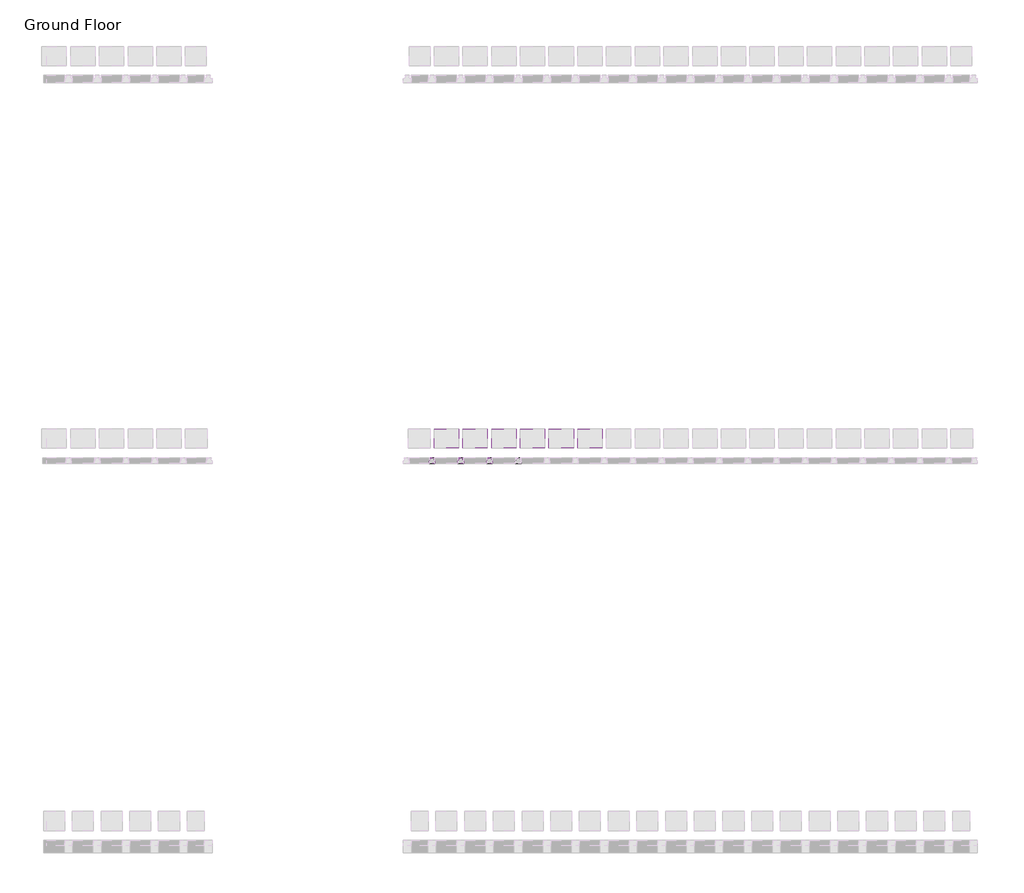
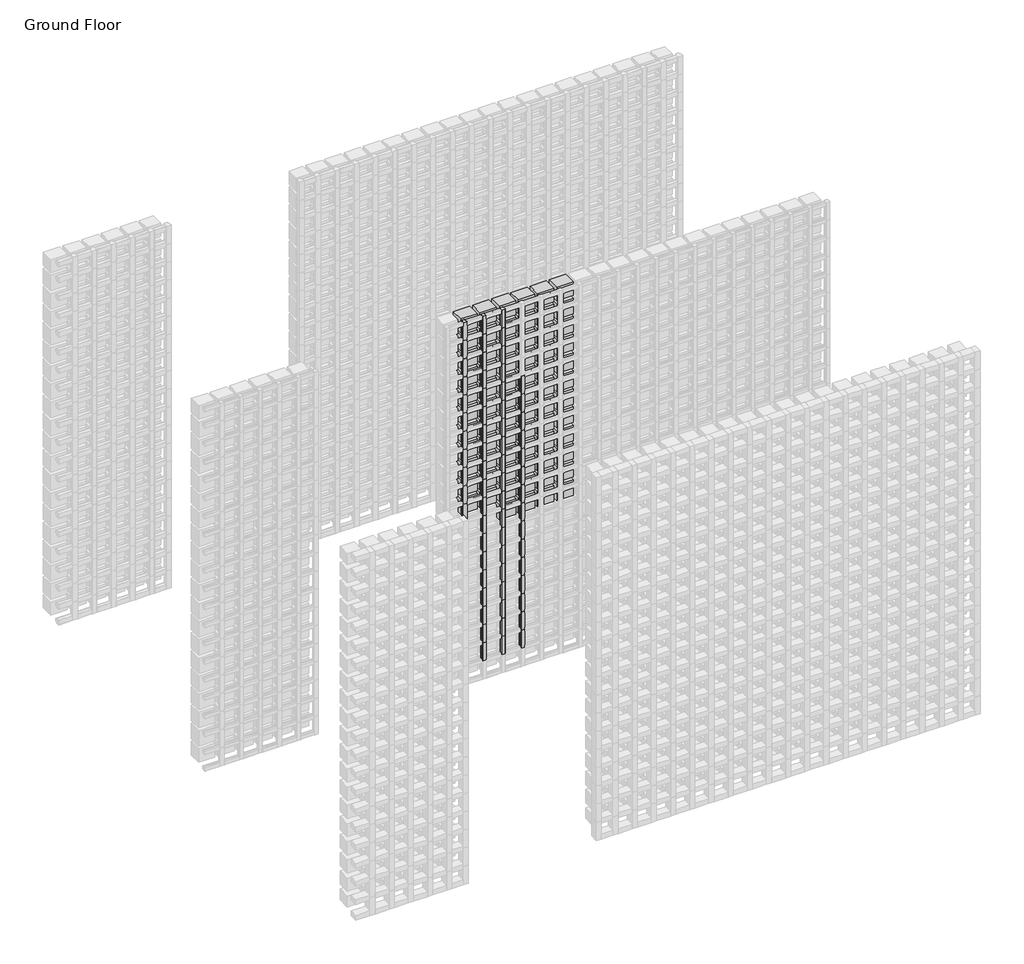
# One storey, part 136 of 350: 72 members, 70 plates.
"""IFC4 building model written with IfcOpenShell, lengths in millimetres."""

from ifc_helpers import new_model, si_unit, origin, place, context, project, spatial, transform, mapped, element, save
from components import rectangular_mullion_f1976eb1, empty_system_panel_empty_5a3607ba, empty_system_panel_empty_babc703c

model = new_model("IFC4")

# Units and contexts
model_context = context("Model", 3, world=origin())
ifc_project = project(units=[si_unit("LENGTHUNIT", "METRE", prefix="MILLI")], contexts=[model_context])

# Site, building, storey
site = spatial("IfcSite", under=ifc_project)
building = spatial("IfcBuilding", under=site)
storey = spatial("IfcBuildingStorey", under=building, Name="Ground Floor", Elevation=0.0)

# Members
placement = place(None, origin())
rectangular_mullion_shape = rectangular_mullion_f1976eb1(model_context)
element("IfcMember", 1, ObjectType="Rectangular Mullion : Batten_Timber_Modinex_Austratus_Grid_Fin_30x30_Hemlock", at=placement, inside=storey, context=model_context, shape_type="MappedRepresentation", body=[
    mapped(rectangular_mullion_shape, transform((10066.4361642, 42968.2978302, 150.0), x_axis=(1.0, 0.0, 0.0), y_axis=(0.0, -1.0, 0.0), z_axis=(0.0, 0.0, -1.0))),
])
element("IfcMember", 2, ObjectType="Rectangular Mullion : Batten_Timber_Modinex_Austratus_Grid_Fin_30x30_Hemlock", at=placement, inside=storey, context=model_context, shape_type="MappedRepresentation", body=[
    mapped(rectangular_mullion_shape, transform((10066.4361642, 42968.2978302, 300.0), x_axis=(1.0, 0.0, 0.0), y_axis=(0.0, -1.0, 0.0), z_axis=(0.0, 0.0, -1.0))),
])
element("IfcMember", 3, ObjectType="Rectangular Mullion : Batten_Timber_Modinex_Austratus_Grid_Fin_30x30_Hemlock", at=placement, inside=storey, context=model_context, shape_type="MappedRepresentation", body=[
    mapped(rectangular_mullion_shape, transform((10066.4361642, 42968.2978302, 450.0), x_axis=(1.0, 0.0, 0.0), y_axis=(0.0, -1.0, 0.0), z_axis=(0.0, 0.0, -1.0))),
])
element("IfcMember", 4, ObjectType="Rectangular Mullion : Batten_Timber_Modinex_Austratus_Grid_Fin_30x30_Hemlock", at=placement, inside=storey, context=model_context, shape_type="MappedRepresentation", body=[
    mapped(rectangular_mullion_shape, transform((10066.4361642, 42968.2978302, 600.0), x_axis=(1.0, 0.0, 0.0), y_axis=(0.0, -1.0, 0.0), z_axis=(0.0, 0.0, -1.0))),
])
element("IfcMember", 5, ObjectType="Rectangular Mullion : Batten_Timber_Modinex_Austratus_Grid_Fin_30x30_Hemlock", at=placement, inside=storey, context=model_context, shape_type="MappedRepresentation", body=[
    mapped(rectangular_mullion_shape, transform((10066.4361642, 42968.2978302, 750.0), x_axis=(1.0, 0.0, 0.0), y_axis=(0.0, -1.0, 0.0), z_axis=(0.0, 0.0, -1.0))),
])
element("IfcMember", 6, ObjectType="Rectangular Mullion : Batten_Timber_Modinex_Austratus_Grid_Fin_30x30_Hemlock", at=placement, inside=storey, context=model_context, shape_type="MappedRepresentation", body=[
    mapped(rectangular_mullion_shape, transform((10066.4361642, 42968.2978302, 900.0), x_axis=(1.0, 0.0, 0.0), y_axis=(0.0, -1.0, 0.0), z_axis=(0.0, 0.0, -1.0))),
])
element("IfcMember", 7, ObjectType="Rectangular Mullion : Batten_Timber_Modinex_Austratus_Grid_Fin_30x30_Hemlock", at=placement, inside=storey, context=model_context, shape_type="MappedRepresentation", body=[
    mapped(rectangular_mullion_shape, transform((10066.4361642, 42968.2978302, 1050.0), x_axis=(1.0, 0.0, 0.0), y_axis=(0.0, -1.0, 0.0), z_axis=(0.0, 0.0, -1.0))),
])
element("IfcMember", 8, ObjectType="Rectangular Mullion : Batten_Timber_Modinex_Austratus_Grid_Fin_30x30_Hemlock", at=placement, inside=storey, context=model_context, shape_type="MappedRepresentation", body=[
    mapped(rectangular_mullion_shape, transform((10066.4361642, 42968.2978302, 1200.0), x_axis=(1.0, 0.0, 0.0), y_axis=(0.0, -1.0, 0.0), z_axis=(0.0, 0.0, -1.0))),
])
element("IfcMember", 9, ObjectType="Rectangular Mullion : Batten_Timber_Modinex_Austratus_Grid_Fin_30x30_Hemlock", at=placement, inside=storey, context=model_context, shape_type="MappedRepresentation", body=[
    mapped(rectangular_mullion_shape, transform((10066.4361642, 42968.2978302, 1350.0), x_axis=(1.0, 0.0, 0.0), y_axis=(0.0, -1.0, 0.0), z_axis=(0.0, 0.0, -1.0))),
])
element("IfcMember", 10, ObjectType="Rectangular Mullion : Batten_Timber_Modinex_Austratus_Grid_Fin_30x30_Hemlock", at=placement, inside=storey, context=model_context, shape_type="MappedRepresentation", body=[
    mapped(rectangular_mullion_shape, transform((10066.4361642, 42968.2978302, 1500.0), x_axis=(1.0, 0.0, 0.0), y_axis=(0.0, -1.0, 0.0), z_axis=(0.0, 0.0, -1.0))),
])
element("IfcMember", 11, ObjectType="Rectangular Mullion : Batten_Timber_Modinex_Austratus_Grid_Fin_30x30_Hemlock", at=placement, inside=storey, context=model_context, shape_type="MappedRepresentation", body=[
    mapped(rectangular_mullion_shape, transform((10066.4361642, 42968.2978302, 1650.0), x_axis=(1.0, 0.0, 0.0), y_axis=(0.0, -1.0, 0.0), z_axis=(0.0, 0.0, -1.0))),
])
element("IfcMember", 12, ObjectType="Rectangular Mullion : Batten_Timber_Modinex_Austratus_Grid_Fin_30x30_Hemlock", at=placement, inside=storey, context=model_context, shape_type="MappedRepresentation", body=[
    mapped(rectangular_mullion_shape, transform((10066.4361642, 42968.2978302, 1800.0), x_axis=(1.0, 0.0, 0.0), y_axis=(0.0, -1.0, 0.0), z_axis=(0.0, 0.0, -1.0))),
])
element("IfcMember", 13, ObjectType="Rectangular Mullion : Batten_Timber_Modinex_Austratus_Grid_Fin_30x30_Hemlock", at=placement, inside=storey, context=model_context, shape_type="MappedRepresentation", body=[
    mapped(rectangular_mullion_shape, transform((10066.4361642, 42968.2978302, 1950.0), x_axis=(1.0, 0.0, 0.0), y_axis=(0.0, -1.0, 0.0), z_axis=(0.0, 0.0, -1.0))),
])
element("IfcMember", 14, ObjectType="Rectangular Mullion : Batten_Timber_Modinex_Austratus_Grid_Fin_30x30_Hemlock", at=placement, inside=storey, context=model_context, shape_type="MappedRepresentation", body=[
    mapped(rectangular_mullion_shape, transform((10066.4361642, 42968.2978302, 2100.0), x_axis=(1.0, 0.0, 0.0), y_axis=(0.0, -1.0, 0.0), z_axis=(0.0, 0.0, -1.0))),
])
element("IfcMember", 15, ObjectType="Rectangular Mullion : Batten_Timber_Modinex_Austratus_Grid_Fin_30x30_Hemlock", at=placement, inside=storey, context=model_context, shape_type="MappedRepresentation", body=[
    mapped(rectangular_mullion_shape, transform((10066.4361642, 42968.2978302, 2250.0), x_axis=(1.0, 0.0, 0.0), y_axis=(0.0, -1.0, 0.0), z_axis=(0.0, 0.0, -1.0))),
])
element("IfcMember", 16, ObjectType="Rectangular Mullion : Batten_Timber_Modinex_Austratus_Grid_Fin_30x30_Hemlock", at=placement, inside=storey, context=model_context, shape_type="MappedRepresentation", body=[
    mapped(rectangular_mullion_shape, transform((10066.4361642, 42968.2978302, 2400.0), x_axis=(1.0, 0.0, 0.0), y_axis=(0.0, -1.0, 0.0), z_axis=(0.0, 0.0, -1.0))),
])
element("IfcMember", 17, ObjectType="Rectangular Mullion : Batten_Timber_Modinex_Austratus_Grid_Fin_30x30_Hemlock", at=placement, inside=storey, context=model_context, shape_type="MappedRepresentation", body=[
    mapped(rectangular_mullion_shape, transform((10066.4361642, 42968.2978302, 2550.0), x_axis=(1.0, 0.0, 0.0), y_axis=(0.0, -1.0, 0.0), z_axis=(0.0, 0.0, -1.0))),
])
element("IfcMember", 18, ObjectType="Rectangular Mullion : Batten_Timber_Modinex_Austratus_Grid_Fin_30x30_Hemlock", at=placement, inside=storey, context=model_context, shape_type="MappedRepresentation", body=[
    mapped(rectangular_mullion_shape, transform((10066.4361642, 42968.2978302, 2700.0), x_axis=(1.0, 0.0, 0.0), y_axis=(0.0, -1.0, 0.0), z_axis=(0.0, 0.0, -1.0))),
])
element("IfcMember", 19, ObjectType="Rectangular Mullion : Batten_Timber_Modinex_Austratus_Grid_Fin_30x30_Hemlock", at=placement, inside=storey, context=model_context, shape_type="MappedRepresentation", body=[
    mapped(rectangular_mullion_shape, transform((10216.4361642, 42968.2978302, 150.0), x_axis=(1.0, 0.0, 0.0), y_axis=(0.0, -1.0, 0.0), z_axis=(0.0, 0.0, -1.0))),
])
element("IfcMember", 20, ObjectType="Rectangular Mullion : Batten_Timber_Modinex_Austratus_Grid_Fin_30x30_Hemlock", at=placement, inside=storey, context=model_context, shape_type="MappedRepresentation", body=[
    mapped(rectangular_mullion_shape, transform((10216.4361642, 42968.2978302, 300.0), x_axis=(1.0, 0.0, 0.0), y_axis=(0.0, -1.0, 0.0), z_axis=(0.0, 0.0, -1.0))),
])
element("IfcMember", 21, ObjectType="Rectangular Mullion : Batten_Timber_Modinex_Austratus_Grid_Fin_30x30_Hemlock", at=placement, inside=storey, context=model_context, shape_type="MappedRepresentation", body=[
    mapped(rectangular_mullion_shape, transform((10216.4361642, 42968.2978302, 450.0), x_axis=(1.0, 0.0, 0.0), y_axis=(0.0, -1.0, 0.0), z_axis=(0.0, 0.0, -1.0))),
])
element("IfcMember", 22, ObjectType="Rectangular Mullion : Batten_Timber_Modinex_Austratus_Grid_Fin_30x30_Hemlock", at=placement, inside=storey, context=model_context, shape_type="MappedRepresentation", body=[
    mapped(rectangular_mullion_shape, transform((10216.4361642, 42968.2978302, 600.0), x_axis=(1.0, 0.0, 0.0), y_axis=(0.0, -1.0, 0.0), z_axis=(0.0, 0.0, -1.0))),
])
element("IfcMember", 23, ObjectType="Rectangular Mullion : Batten_Timber_Modinex_Austratus_Grid_Fin_30x30_Hemlock", at=placement, inside=storey, context=model_context, shape_type="MappedRepresentation", body=[
    mapped(rectangular_mullion_shape, transform((10216.4361642, 42968.2978302, 750.0), x_axis=(1.0, 0.0, 0.0), y_axis=(0.0, -1.0, 0.0), z_axis=(0.0, 0.0, -1.0))),
])
element("IfcMember", 24, ObjectType="Rectangular Mullion : Batten_Timber_Modinex_Austratus_Grid_Fin_30x30_Hemlock", at=placement, inside=storey, context=model_context, shape_type="MappedRepresentation", body=[
    mapped(rectangular_mullion_shape, transform((10216.4361642, 42968.2978302, 900.0), x_axis=(1.0, 0.0, 0.0), y_axis=(0.0, -1.0, 0.0), z_axis=(0.0, 0.0, -1.0))),
])
element("IfcMember", 25, ObjectType="Rectangular Mullion : Batten_Timber_Modinex_Austratus_Grid_Fin_30x30_Hemlock", at=placement, inside=storey, context=model_context, shape_type="MappedRepresentation", body=[
    mapped(rectangular_mullion_shape, transform((10216.4361642, 42968.2978302, 1050.0), x_axis=(1.0, 0.0, 0.0), y_axis=(0.0, -1.0, 0.0), z_axis=(0.0, 0.0, -1.0))),
])
element("IfcMember", 26, ObjectType="Rectangular Mullion : Batten_Timber_Modinex_Austratus_Grid_Fin_30x30_Hemlock", at=placement, inside=storey, context=model_context, shape_type="MappedRepresentation", body=[
    mapped(rectangular_mullion_shape, transform((10216.4361642, 42968.2978302, 1200.0), x_axis=(1.0, 0.0, 0.0), y_axis=(0.0, -1.0, 0.0), z_axis=(0.0, 0.0, -1.0))),
])
element("IfcMember", 27, ObjectType="Rectangular Mullion : Batten_Timber_Modinex_Austratus_Grid_Fin_30x30_Hemlock", at=placement, inside=storey, context=model_context, shape_type="MappedRepresentation", body=[
    mapped(rectangular_mullion_shape, transform((10216.4361642, 42968.2978302, 1350.0), x_axis=(1.0, 0.0, 0.0), y_axis=(0.0, -1.0, 0.0), z_axis=(0.0, 0.0, -1.0))),
])
element("IfcMember", 28, ObjectType="Rectangular Mullion : Batten_Timber_Modinex_Austratus_Grid_Fin_30x30_Hemlock", at=placement, inside=storey, context=model_context, shape_type="MappedRepresentation", body=[
    mapped(rectangular_mullion_shape, transform((10216.4361642, 42968.2978302, 1500.0), x_axis=(1.0, 0.0, 0.0), y_axis=(0.0, -1.0, 0.0), z_axis=(0.0, 0.0, -1.0))),
])
element("IfcMember", 29, ObjectType="Rectangular Mullion : Batten_Timber_Modinex_Austratus_Grid_Fin_30x30_Hemlock", at=placement, inside=storey, context=model_context, shape_type="MappedRepresentation", body=[
    mapped(rectangular_mullion_shape, transform((10216.4361642, 42968.2978302, 1650.0), x_axis=(1.0, 0.0, 0.0), y_axis=(0.0, -1.0, 0.0), z_axis=(0.0, 0.0, -1.0))),
])
element("IfcMember", 30, ObjectType="Rectangular Mullion : Batten_Timber_Modinex_Austratus_Grid_Fin_30x30_Hemlock", at=placement, inside=storey, context=model_context, shape_type="MappedRepresentation", body=[
    mapped(rectangular_mullion_shape, transform((10216.4361642, 42968.2978302, 1800.0), x_axis=(1.0, 0.0, 0.0), y_axis=(0.0, -1.0, 0.0), z_axis=(0.0, 0.0, -1.0))),
])
element("IfcMember", 31, ObjectType="Rectangular Mullion : Batten_Timber_Modinex_Austratus_Grid_Fin_30x30_Hemlock", at=placement, inside=storey, context=model_context, shape_type="MappedRepresentation", body=[
    mapped(rectangular_mullion_shape, transform((10216.4361642, 42968.2978302, 1950.0), x_axis=(1.0, 0.0, 0.0), y_axis=(0.0, -1.0, 0.0), z_axis=(0.0, 0.0, -1.0))),
])
element("IfcMember", 32, ObjectType="Rectangular Mullion : Batten_Timber_Modinex_Austratus_Grid_Fin_30x30_Hemlock", at=placement, inside=storey, context=model_context, shape_type="MappedRepresentation", body=[
    mapped(rectangular_mullion_shape, transform((10216.4361642, 42968.2978302, 2100.0), x_axis=(1.0, 0.0, 0.0), y_axis=(0.0, -1.0, 0.0), z_axis=(0.0, 0.0, -1.0))),
])
element("IfcMember", 33, ObjectType="Rectangular Mullion : Batten_Timber_Modinex_Austratus_Grid_Fin_30x30_Hemlock", at=placement, inside=storey, context=model_context, shape_type="MappedRepresentation", body=[
    mapped(rectangular_mullion_shape, transform((10216.4361642, 42968.2978302, 2250.0), x_axis=(1.0, 0.0, 0.0), y_axis=(0.0, -1.0, 0.0), z_axis=(0.0, 0.0, -1.0))),
])
element("IfcMember", 34, ObjectType="Rectangular Mullion : Batten_Timber_Modinex_Austratus_Grid_Fin_30x30_Hemlock", at=placement, inside=storey, context=model_context, shape_type="MappedRepresentation", body=[
    mapped(rectangular_mullion_shape, transform((10216.4361642, 42968.2978302, 2400.0), x_axis=(1.0, 0.0, 0.0), y_axis=(0.0, -1.0, 0.0), z_axis=(0.0, 0.0, -1.0))),
])
element("IfcMember", 35, ObjectType="Rectangular Mullion : Batten_Timber_Modinex_Austratus_Grid_Fin_30x30_Hemlock", at=placement, inside=storey, context=model_context, shape_type="MappedRepresentation", body=[
    mapped(rectangular_mullion_shape, transform((10216.4361642, 42968.2978302, 2550.0), x_axis=(1.0, 0.0, 0.0), y_axis=(0.0, -1.0, 0.0), z_axis=(0.0, 0.0, -1.0))),
])
element("IfcMember", 36, ObjectType="Rectangular Mullion : Batten_Timber_Modinex_Austratus_Grid_Fin_30x30_Hemlock", at=placement, inside=storey, context=model_context, shape_type="MappedRepresentation", body=[
    mapped(rectangular_mullion_shape, transform((10216.4361642, 42968.2978302, 2700.0), x_axis=(1.0, 0.0, 0.0), y_axis=(0.0, -1.0, 0.0), z_axis=(0.0, 0.0, -1.0))),
])
element("IfcMember", 37, ObjectType="Rectangular Mullion : Batten_Timber_Modinex_Austratus_Grid_Fin_30x30_Hemlock", at=placement, inside=storey, context=model_context, shape_type="MappedRepresentation", body=[
    mapped(rectangular_mullion_shape, transform((10366.4361642, 42968.2978302, 150.0), x_axis=(1.0, 0.0, 0.0), y_axis=(0.0, -1.0, 0.0), z_axis=(0.0, 0.0, -1.0))),
])
element("IfcMember", 38, ObjectType="Rectangular Mullion : Batten_Timber_Modinex_Austratus_Grid_Fin_30x30_Hemlock", at=placement, inside=storey, context=model_context, shape_type="MappedRepresentation", body=[
    mapped(rectangular_mullion_shape, transform((10366.4361642, 42968.2978302, 300.0), x_axis=(1.0, 0.0, 0.0), y_axis=(0.0, -1.0, 0.0), z_axis=(0.0, 0.0, -1.0))),
])
element("IfcMember", 39, ObjectType="Rectangular Mullion : Batten_Timber_Modinex_Austratus_Grid_Fin_30x30_Hemlock", at=placement, inside=storey, context=model_context, shape_type="MappedRepresentation", body=[
    mapped(rectangular_mullion_shape, transform((10366.4361642, 42968.2978302, 450.0), x_axis=(1.0, 0.0, 0.0), y_axis=(0.0, -1.0, 0.0), z_axis=(0.0, 0.0, -1.0))),
])
element("IfcMember", 40, ObjectType="Rectangular Mullion : Batten_Timber_Modinex_Austratus_Grid_Fin_30x30_Hemlock", at=placement, inside=storey, context=model_context, shape_type="MappedRepresentation", body=[
    mapped(rectangular_mullion_shape, transform((10366.4361642, 42968.2978302, 600.0), x_axis=(1.0, 0.0, 0.0), y_axis=(0.0, -1.0, 0.0), z_axis=(0.0, 0.0, -1.0))),
])
element("IfcMember", 41, ObjectType="Rectangular Mullion : Batten_Timber_Modinex_Austratus_Grid_Fin_30x30_Hemlock", at=placement, inside=storey, context=model_context, shape_type="MappedRepresentation", body=[
    mapped(rectangular_mullion_shape, transform((10366.4361642, 42968.2978302, 750.0), x_axis=(1.0, 0.0, 0.0), y_axis=(0.0, -1.0, 0.0), z_axis=(0.0, 0.0, -1.0))),
])
element("IfcMember", 42, ObjectType="Rectangular Mullion : Batten_Timber_Modinex_Austratus_Grid_Fin_30x30_Hemlock", at=placement, inside=storey, context=model_context, shape_type="MappedRepresentation", body=[
    mapped(rectangular_mullion_shape, transform((10366.4361642, 42968.2978302, 900.0), x_axis=(1.0, 0.0, 0.0), y_axis=(0.0, -1.0, 0.0), z_axis=(0.0, 0.0, -1.0))),
])
element("IfcMember", 43, ObjectType="Rectangular Mullion : Batten_Timber_Modinex_Austratus_Grid_Fin_30x30_Hemlock", at=placement, inside=storey, context=model_context, shape_type="MappedRepresentation", body=[
    mapped(rectangular_mullion_shape, transform((10366.4361642, 42968.2978302, 1050.0), x_axis=(1.0, 0.0, 0.0), y_axis=(0.0, -1.0, 0.0), z_axis=(0.0, 0.0, -1.0))),
])
element("IfcMember", 44, ObjectType="Rectangular Mullion : Batten_Timber_Modinex_Austratus_Grid_Fin_30x30_Hemlock", at=placement, inside=storey, context=model_context, shape_type="MappedRepresentation", body=[
    mapped(rectangular_mullion_shape, transform((10366.4361642, 42968.2978302, 1200.0), x_axis=(1.0, 0.0, 0.0), y_axis=(0.0, -1.0, 0.0), z_axis=(0.0, 0.0, -1.0))),
])
element("IfcMember", 45, ObjectType="Rectangular Mullion : Batten_Timber_Modinex_Austratus_Grid_Fin_30x30_Hemlock", at=placement, inside=storey, context=model_context, shape_type="MappedRepresentation", body=[
    mapped(rectangular_mullion_shape, transform((10366.4361642, 42968.2978302, 1350.0), x_axis=(1.0, 0.0, 0.0), y_axis=(0.0, -1.0, 0.0), z_axis=(0.0, 0.0, -1.0))),
])
element("IfcMember", 46, ObjectType="Rectangular Mullion : Batten_Timber_Modinex_Austratus_Grid_Fin_30x30_Hemlock", at=placement, inside=storey, context=model_context, shape_type="MappedRepresentation", body=[
    mapped(rectangular_mullion_shape, transform((10366.4361642, 42968.2978302, 1500.0), x_axis=(1.0, 0.0, 0.0), y_axis=(0.0, -1.0, 0.0), z_axis=(0.0, 0.0, -1.0))),
])
element("IfcMember", 47, ObjectType="Rectangular Mullion : Batten_Timber_Modinex_Austratus_Grid_Fin_30x30_Hemlock", at=placement, inside=storey, context=model_context, shape_type="MappedRepresentation", body=[
    mapped(rectangular_mullion_shape, transform((10366.4361642, 42968.2978302, 1650.0), x_axis=(1.0, 0.0, 0.0), y_axis=(0.0, -1.0, 0.0), z_axis=(0.0, 0.0, -1.0))),
])
element("IfcMember", 48, ObjectType="Rectangular Mullion : Batten_Timber_Modinex_Austratus_Grid_Fin_30x30_Hemlock", at=placement, inside=storey, context=model_context, shape_type="MappedRepresentation", body=[
    mapped(rectangular_mullion_shape, transform((10366.4361642, 42968.2978302, 1800.0), x_axis=(1.0, 0.0, 0.0), y_axis=(0.0, -1.0, 0.0), z_axis=(0.0, 0.0, -1.0))),
])
element("IfcMember", 49, ObjectType="Rectangular Mullion : Batten_Timber_Modinex_Austratus_Grid_Fin_30x30_Hemlock", at=placement, inside=storey, context=model_context, shape_type="MappedRepresentation", body=[
    mapped(rectangular_mullion_shape, transform((10366.4361642, 42968.2978302, 1950.0), x_axis=(1.0, 0.0, 0.0), y_axis=(0.0, -1.0, 0.0), z_axis=(0.0, 0.0, -1.0))),
])
element("IfcMember", 50, ObjectType="Rectangular Mullion : Batten_Timber_Modinex_Austratus_Grid_Fin_30x30_Hemlock", at=placement, inside=storey, context=model_context, shape_type="MappedRepresentation", body=[
    mapped(rectangular_mullion_shape, transform((10366.4361642, 42968.2978302, 2100.0), x_axis=(1.0, 0.0, 0.0), y_axis=(0.0, -1.0, 0.0), z_axis=(0.0, 0.0, -1.0))),
])
element("IfcMember", 51, ObjectType="Rectangular Mullion : Batten_Timber_Modinex_Austratus_Grid_Fin_30x30_Hemlock", at=placement, inside=storey, context=model_context, shape_type="MappedRepresentation", body=[
    mapped(rectangular_mullion_shape, transform((10366.4361642, 42968.2978302, 2250.0), x_axis=(1.0, 0.0, 0.0), y_axis=(0.0, -1.0, 0.0), z_axis=(0.0, 0.0, -1.0))),
])
element("IfcMember", 52, ObjectType="Rectangular Mullion : Batten_Timber_Modinex_Austratus_Grid_Fin_30x30_Hemlock", at=placement, inside=storey, context=model_context, shape_type="MappedRepresentation", body=[
    mapped(rectangular_mullion_shape, transform((10366.4361642, 42968.2978302, 2400.0), x_axis=(1.0, 0.0, 0.0), y_axis=(0.0, -1.0, 0.0), z_axis=(0.0, 0.0, -1.0))),
])
element("IfcMember", 53, ObjectType="Rectangular Mullion : Batten_Timber_Modinex_Austratus_Grid_Fin_30x30_Hemlock", at=placement, inside=storey, context=model_context, shape_type="MappedRepresentation", body=[
    mapped(rectangular_mullion_shape, transform((10366.4361642, 42968.2978302, 2550.0), x_axis=(1.0, 0.0, 0.0), y_axis=(0.0, -1.0, 0.0), z_axis=(0.0, 0.0, -1.0))),
])
element("IfcMember", 54, ObjectType="Rectangular Mullion : Batten_Timber_Modinex_Austratus_Grid_Fin_30x30_Hemlock", at=placement, inside=storey, context=model_context, shape_type="MappedRepresentation", body=[
    mapped(rectangular_mullion_shape, transform((10366.4361642, 42968.2978302, 2700.0), x_axis=(1.0, 0.0, 0.0), y_axis=(0.0, -1.0, 0.0), z_axis=(0.0, 0.0, -1.0))),
])
element("IfcMember", 55, ObjectType="Rectangular Mullion : Batten_Timber_Modinex_Austratus_Grid_Fin_30x30_Hemlock", at=placement, inside=storey, context=model_context, shape_type="MappedRepresentation", body=[
    mapped(rectangular_mullion_shape, transform((10516.4361642, 42968.2978302, 150.0), x_axis=(1.0, 0.0, 0.0), y_axis=(0.0, -1.0, 0.0), z_axis=(0.0, 0.0, -1.0))),
])
element("IfcMember", 56, ObjectType="Rectangular Mullion : Batten_Timber_Modinex_Austratus_Grid_Fin_30x30_Hemlock", at=placement, inside=storey, context=model_context, shape_type="MappedRepresentation", body=[
    mapped(rectangular_mullion_shape, transform((10516.4361642, 42968.2978302, 300.0), x_axis=(1.0, 0.0, 0.0), y_axis=(0.0, -1.0, 0.0), z_axis=(0.0, 0.0, -1.0))),
])
element("IfcMember", 57, ObjectType="Rectangular Mullion : Batten_Timber_Modinex_Austratus_Grid_Fin_30x30_Hemlock", at=placement, inside=storey, context=model_context, shape_type="MappedRepresentation", body=[
    mapped(rectangular_mullion_shape, transform((10516.4361642, 42968.2978302, 450.0), x_axis=(1.0, 0.0, 0.0), y_axis=(0.0, -1.0, 0.0), z_axis=(0.0, 0.0, -1.0))),
])
element("IfcMember", 58, ObjectType="Rectangular Mullion : Batten_Timber_Modinex_Austratus_Grid_Fin_30x30_Hemlock", at=placement, inside=storey, context=model_context, shape_type="MappedRepresentation", body=[
    mapped(rectangular_mullion_shape, transform((10516.4361642, 42968.2978302, 600.0), x_axis=(1.0, 0.0, 0.0), y_axis=(0.0, -1.0, 0.0), z_axis=(0.0, 0.0, -1.0))),
])
element("IfcMember", 59, ObjectType="Rectangular Mullion : Batten_Timber_Modinex_Austratus_Grid_Fin_30x30_Hemlock", at=placement, inside=storey, context=model_context, shape_type="MappedRepresentation", body=[
    mapped(rectangular_mullion_shape, transform((10516.4361642, 42968.2978302, 750.0), x_axis=(1.0, 0.0, 0.0), y_axis=(0.0, -1.0, 0.0), z_axis=(0.0, 0.0, -1.0))),
])
element("IfcMember", 60, ObjectType="Rectangular Mullion : Batten_Timber_Modinex_Austratus_Grid_Fin_30x30_Hemlock", at=placement, inside=storey, context=model_context, shape_type="MappedRepresentation", body=[
    mapped(rectangular_mullion_shape, transform((10516.4361642, 42968.2978302, 900.0), x_axis=(1.0, 0.0, 0.0), y_axis=(0.0, -1.0, 0.0), z_axis=(0.0, 0.0, -1.0))),
])
element("IfcMember", 61, ObjectType="Rectangular Mullion : Batten_Timber_Modinex_Austratus_Grid_Fin_30x30_Hemlock", at=placement, inside=storey, context=model_context, shape_type="MappedRepresentation", body=[
    mapped(rectangular_mullion_shape, transform((10516.4361642, 42968.2978302, 1050.0), x_axis=(1.0, 0.0, 0.0), y_axis=(0.0, -1.0, 0.0), z_axis=(0.0, 0.0, -1.0))),
])
element("IfcMember", 62, ObjectType="Rectangular Mullion : Batten_Timber_Modinex_Austratus_Grid_Fin_30x30_Hemlock", at=placement, inside=storey, context=model_context, shape_type="MappedRepresentation", body=[
    mapped(rectangular_mullion_shape, transform((10516.4361642, 42968.2978302, 1200.0), x_axis=(1.0, 0.0, 0.0), y_axis=(0.0, -1.0, 0.0), z_axis=(0.0, 0.0, -1.0))),
])
element("IfcMember", 63, ObjectType="Rectangular Mullion : Batten_Timber_Modinex_Austratus_Grid_Fin_30x30_Hemlock", at=placement, inside=storey, context=model_context, shape_type="MappedRepresentation", body=[
    mapped(rectangular_mullion_shape, transform((10516.4361642, 42968.2978302, 1350.0), x_axis=(1.0, 0.0, 0.0), y_axis=(0.0, -1.0, 0.0), z_axis=(0.0, 0.0, -1.0))),
])
element("IfcMember", 64, ObjectType="Rectangular Mullion : Batten_Timber_Modinex_Austratus_Grid_Fin_30x30_Hemlock", at=placement, inside=storey, context=model_context, shape_type="MappedRepresentation", body=[
    mapped(rectangular_mullion_shape, transform((10516.4361642, 42968.2978302, 1500.0), x_axis=(1.0, 0.0, 0.0), y_axis=(0.0, -1.0, 0.0), z_axis=(0.0, 0.0, -1.0))),
])
element("IfcMember", 65, ObjectType="Rectangular Mullion : Batten_Timber_Modinex_Austratus_Grid_Fin_30x30_Hemlock", at=placement, inside=storey, context=model_context, shape_type="MappedRepresentation", body=[
    mapped(rectangular_mullion_shape, transform((10516.4361642, 42968.2978302, 1650.0), x_axis=(1.0, 0.0, 0.0), y_axis=(0.0, -1.0, 0.0), z_axis=(0.0, 0.0, -1.0))),
])
element("IfcMember", 66, ObjectType="Rectangular Mullion : Batten_Timber_Modinex_Austratus_Grid_Fin_30x30_Hemlock", at=placement, inside=storey, context=model_context, shape_type="MappedRepresentation", body=[
    mapped(rectangular_mullion_shape, transform((10516.4361642, 42968.2978302, 1800.0), x_axis=(1.0, 0.0, 0.0), y_axis=(0.0, -1.0, 0.0), z_axis=(0.0, 0.0, -1.0))),
])
element("IfcMember", 67, ObjectType="Rectangular Mullion : Batten_Timber_Modinex_Austratus_Grid_Fin_30x30_Hemlock", at=placement, inside=storey, context=model_context, shape_type="MappedRepresentation", body=[
    mapped(rectangular_mullion_shape, transform((10516.4361642, 42968.2978302, 1950.0), x_axis=(1.0, 0.0, 0.0), y_axis=(0.0, -1.0, 0.0), z_axis=(0.0, 0.0, -1.0))),
])
element("IfcMember", 68, ObjectType="Rectangular Mullion : Batten_Timber_Modinex_Austratus_Grid_Fin_30x30_Hemlock", at=placement, inside=storey, context=model_context, shape_type="MappedRepresentation", body=[
    mapped(rectangular_mullion_shape, transform((10516.4361642, 42968.2978302, 2100.0), x_axis=(1.0, 0.0, 0.0), y_axis=(0.0, -1.0, 0.0), z_axis=(0.0, 0.0, -1.0))),
])
element("IfcMember", 69, ObjectType="Rectangular Mullion : Batten_Timber_Modinex_Austratus_Grid_Fin_30x30_Hemlock", at=placement, inside=storey, context=model_context, shape_type="MappedRepresentation", body=[
    mapped(rectangular_mullion_shape, transform((10516.4361642, 42968.2978302, 2250.0), x_axis=(1.0, 0.0, 0.0), y_axis=(0.0, -1.0, 0.0), z_axis=(0.0, 0.0, -1.0))),
])
element("IfcMember", 70, ObjectType="Rectangular Mullion : Batten_Timber_Modinex_Austratus_Grid_Fin_30x30_Hemlock", at=placement, inside=storey, context=model_context, shape_type="MappedRepresentation", body=[
    mapped(rectangular_mullion_shape, transform((10066.4361642, 42968.2978302, 2850.0), x_axis=(1.0, 0.0, 0.0), y_axis=(0.0, -1.0, 0.0), z_axis=(0.0, 0.0, -1.0))),
])
element("IfcMember", 71, ObjectType="Rectangular Mullion : Batten_Timber_Modinex_Austratus_Grid_Fin_30x30_Hemlock", at=placement, inside=storey, context=model_context, shape_type="MappedRepresentation", body=[
    mapped(rectangular_mullion_shape, transform((10216.4361642, 42968.2978302, 2850.0), x_axis=(1.0, 0.0, 0.0), y_axis=(0.0, -1.0, 0.0), z_axis=(0.0, 0.0, -1.0))),
])
element("IfcMember", 72, ObjectType="Rectangular Mullion : Batten_Timber_Modinex_Austratus_Grid_Fin_30x30_Hemlock", at=placement, inside=storey, context=model_context, shape_type="MappedRepresentation", body=[
    mapped(rectangular_mullion_shape, transform((10366.4361642, 42968.2978302, 2850.0), x_axis=(1.0, 0.0, 0.0), y_axis=(0.0, -1.0, 0.0), z_axis=(0.0, 0.0, -1.0))),
])

# Plates
empty_system_panel_empty_shape = empty_system_panel_empty_5a3607ba(model_context)
element("IfcPlate", 73, ObjectType="Empty System Panel : Empty", at=placement, inside=storey, context=model_context, shape_type="MappedRepresentation", body=[
    mapped(empty_system_panel_empty_shape, transform((10441.4361642, 42968.2978302, 1210.812195), x_axis=(1.0, 0.0, 0.0), y_axis=(0.0, 1.0, 0.0), z_axis=(0.0, 0.0, 1.0))),
])
element("IfcPlate", 74, ObjectType="Empty System Panel : Empty", at=placement, inside=storey, context=model_context, shape_type="MappedRepresentation", body=[
    mapped(empty_system_panel_empty_shape, transform((10591.4361642, 42968.2978302, 1210.812195), x_axis=(1.0, 0.0, 0.0), y_axis=(0.0, 1.0, 0.0), z_axis=(0.0, 0.0, 1.0))),
])
element("IfcPlate", 75, ObjectType="Empty System Panel : Empty", at=placement, inside=storey, context=model_context, shape_type="MappedRepresentation", body=[
    mapped(empty_system_panel_empty_shape, transform((10741.4361642, 42968.2978302, 1210.812195), x_axis=(1.0, 0.0, 0.0), y_axis=(0.0, 1.0, 0.0), z_axis=(0.0, 0.0, 1.0))),
])
element("IfcPlate", 76, ObjectType="Empty System Panel : Empty", at=placement, inside=storey, context=model_context, shape_type="MappedRepresentation", body=[
    mapped(empty_system_panel_empty_shape, transform((10891.4361642, 42968.2978302, 1210.812195), x_axis=(1.0, 0.0, 0.0), y_axis=(0.0, 1.0, 0.0), z_axis=(0.0, 0.0, 1.0))),
])
element("IfcPlate", 77, ObjectType="Empty System Panel : Empty", at=placement, inside=storey, context=model_context, shape_type="MappedRepresentation", body=[
    mapped(empty_system_panel_empty_shape, transform((10141.4361642, 42968.2978302, 1360.812195), x_axis=(1.0, 0.0, 0.0), y_axis=(0.0, 1.0, 0.0), z_axis=(0.0, 0.0, 1.0))),
])
element("IfcPlate", 78, ObjectType="Empty System Panel : Empty", at=placement, inside=storey, context=model_context, shape_type="MappedRepresentation", body=[
    mapped(empty_system_panel_empty_shape, transform((10291.4361642, 42968.2978302, 1360.812195), x_axis=(1.0, 0.0, 0.0), y_axis=(0.0, 1.0, 0.0), z_axis=(0.0, 0.0, 1.0))),
])
element("IfcPlate", 79, ObjectType="Empty System Panel : Empty", at=placement, inside=storey, context=model_context, shape_type="MappedRepresentation", body=[
    mapped(empty_system_panel_empty_shape, transform((10441.4361642, 42968.2978302, 1360.812195), x_axis=(1.0, 0.0, 0.0), y_axis=(0.0, 1.0, 0.0), z_axis=(0.0, 0.0, 1.0))),
])
element("IfcPlate", 80, ObjectType="Empty System Panel : Empty", at=placement, inside=storey, context=model_context, shape_type="MappedRepresentation", body=[
    mapped(empty_system_panel_empty_shape, transform((10591.4361642, 42968.2978302, 1360.812195), x_axis=(1.0, 0.0, 0.0), y_axis=(0.0, 1.0, 0.0), z_axis=(0.0, 0.0, 1.0))),
])
element("IfcPlate", 81, ObjectType="Empty System Panel : Empty", at=placement, inside=storey, context=model_context, shape_type="MappedRepresentation", body=[
    mapped(empty_system_panel_empty_shape, transform((10741.4361642, 42968.2978302, 1360.812195), x_axis=(1.0, 0.0, 0.0), y_axis=(0.0, 1.0, 0.0), z_axis=(0.0, 0.0, 1.0))),
])
element("IfcPlate", 82, ObjectType="Empty System Panel : Empty", at=placement, inside=storey, context=model_context, shape_type="MappedRepresentation", body=[
    mapped(empty_system_panel_empty_shape, transform((10891.4361642, 42968.2978302, 1360.812195), x_axis=(1.0, 0.0, 0.0), y_axis=(0.0, 1.0, 0.0), z_axis=(0.0, 0.0, 1.0))),
])
element("IfcPlate", 83, ObjectType="Empty System Panel : Empty", at=placement, inside=storey, context=model_context, shape_type="MappedRepresentation", body=[
    mapped(empty_system_panel_empty_shape, transform((10141.4361642, 42968.2978302, 1510.812195), x_axis=(1.0, 0.0, 0.0), y_axis=(0.0, 1.0, 0.0), z_axis=(0.0, 0.0, 1.0))),
])
element("IfcPlate", 84, ObjectType="Empty System Panel : Empty", at=placement, inside=storey, context=model_context, shape_type="MappedRepresentation", body=[
    mapped(empty_system_panel_empty_shape, transform((10291.4361642, 42968.2978302, 1510.812195), x_axis=(1.0, 0.0, 0.0), y_axis=(0.0, 1.0, 0.0), z_axis=(0.0, 0.0, 1.0))),
])
element("IfcPlate", 85, ObjectType="Empty System Panel : Empty", at=placement, inside=storey, context=model_context, shape_type="MappedRepresentation", body=[
    mapped(empty_system_panel_empty_shape, transform((10441.4361642, 42968.2978302, 1510.812195), x_axis=(1.0, 0.0, 0.0), y_axis=(0.0, 1.0, 0.0), z_axis=(0.0, 0.0, 1.0))),
])
element("IfcPlate", 86, ObjectType="Empty System Panel : Empty", at=placement, inside=storey, context=model_context, shape_type="MappedRepresentation", body=[
    mapped(empty_system_panel_empty_shape, transform((10591.4361642, 42968.2978302, 1510.812195), x_axis=(1.0, 0.0, 0.0), y_axis=(0.0, 1.0, 0.0), z_axis=(0.0, 0.0, 1.0))),
])
element("IfcPlate", 87, ObjectType="Empty System Panel : Empty", at=placement, inside=storey, context=model_context, shape_type="MappedRepresentation", body=[
    mapped(empty_system_panel_empty_shape, transform((10741.4361642, 42968.2978302, 1510.812195), x_axis=(1.0, 0.0, 0.0), y_axis=(0.0, 1.0, 0.0), z_axis=(0.0, 0.0, 1.0))),
])
element("IfcPlate", 88, ObjectType="Empty System Panel : Empty", at=placement, inside=storey, context=model_context, shape_type="MappedRepresentation", body=[
    mapped(empty_system_panel_empty_shape, transform((10891.4361642, 42968.2978302, 1510.812195), x_axis=(1.0, 0.0, 0.0), y_axis=(0.0, 1.0, 0.0), z_axis=(0.0, 0.0, 1.0))),
])
element("IfcPlate", 89, ObjectType="Empty System Panel : Empty", at=placement, inside=storey, context=model_context, shape_type="MappedRepresentation", body=[
    mapped(empty_system_panel_empty_shape, transform((10141.4361642, 42968.2978302, 1660.812195), x_axis=(1.0, 0.0, 0.0), y_axis=(0.0, 1.0, 0.0), z_axis=(0.0, 0.0, 1.0))),
])
element("IfcPlate", 90, ObjectType="Empty System Panel : Empty", at=placement, inside=storey, context=model_context, shape_type="MappedRepresentation", body=[
    mapped(empty_system_panel_empty_shape, transform((10291.4361642, 42968.2978302, 1660.812195), x_axis=(1.0, 0.0, 0.0), y_axis=(0.0, 1.0, 0.0), z_axis=(0.0, 0.0, 1.0))),
])
element("IfcPlate", 91, ObjectType="Empty System Panel : Empty", at=placement, inside=storey, context=model_context, shape_type="MappedRepresentation", body=[
    mapped(empty_system_panel_empty_shape, transform((10441.4361642, 42968.2978302, 1660.812195), x_axis=(1.0, 0.0, 0.0), y_axis=(0.0, 1.0, 0.0), z_axis=(0.0, 0.0, 1.0))),
])
element("IfcPlate", 92, ObjectType="Empty System Panel : Empty", at=placement, inside=storey, context=model_context, shape_type="MappedRepresentation", body=[
    mapped(empty_system_panel_empty_shape, transform((10591.4361642, 42968.2978302, 1660.812195), x_axis=(1.0, 0.0, 0.0), y_axis=(0.0, 1.0, 0.0), z_axis=(0.0, 0.0, 1.0))),
])
element("IfcPlate", 93, ObjectType="Empty System Panel : Empty", at=placement, inside=storey, context=model_context, shape_type="MappedRepresentation", body=[
    mapped(empty_system_panel_empty_shape, transform((10741.4361642, 42968.2978302, 1660.812195), x_axis=(1.0, 0.0, 0.0), y_axis=(0.0, 1.0, 0.0), z_axis=(0.0, 0.0, 1.0))),
])
element("IfcPlate", 94, ObjectType="Empty System Panel : Empty", at=placement, inside=storey, context=model_context, shape_type="MappedRepresentation", body=[
    mapped(empty_system_panel_empty_shape, transform((10891.4361642, 42968.2978302, 1660.812195), x_axis=(1.0, 0.0, 0.0), y_axis=(0.0, 1.0, 0.0), z_axis=(0.0, 0.0, 1.0))),
])
element("IfcPlate", 95, ObjectType="Empty System Panel : Empty", at=placement, inside=storey, context=model_context, shape_type="MappedRepresentation", body=[
    mapped(empty_system_panel_empty_shape, transform((10141.4361642, 42968.2978302, 1810.812195), x_axis=(1.0, 0.0, 0.0), y_axis=(0.0, 1.0, 0.0), z_axis=(0.0, 0.0, 1.0))),
])
element("IfcPlate", 96, ObjectType="Empty System Panel : Empty", at=placement, inside=storey, context=model_context, shape_type="MappedRepresentation", body=[
    mapped(empty_system_panel_empty_shape, transform((10291.4361642, 42968.2978302, 1810.812195), x_axis=(1.0, 0.0, 0.0), y_axis=(0.0, 1.0, 0.0), z_axis=(0.0, 0.0, 1.0))),
])
element("IfcPlate", 97, ObjectType="Empty System Panel : Empty", at=placement, inside=storey, context=model_context, shape_type="MappedRepresentation", body=[
    mapped(empty_system_panel_empty_shape, transform((10441.4361642, 42968.2978302, 1810.812195), x_axis=(1.0, 0.0, 0.0), y_axis=(0.0, 1.0, 0.0), z_axis=(0.0, 0.0, 1.0))),
])
element("IfcPlate", 98, ObjectType="Empty System Panel : Empty", at=placement, inside=storey, context=model_context, shape_type="MappedRepresentation", body=[
    mapped(empty_system_panel_empty_shape, transform((10591.4361642, 42968.2978302, 1810.812195), x_axis=(1.0, 0.0, 0.0), y_axis=(0.0, 1.0, 0.0), z_axis=(0.0, 0.0, 1.0))),
])
element("IfcPlate", 99, ObjectType="Empty System Panel : Empty", at=placement, inside=storey, context=model_context, shape_type="MappedRepresentation", body=[
    mapped(empty_system_panel_empty_shape, transform((10741.4361642, 42968.2978302, 1810.812195), x_axis=(1.0, 0.0, 0.0), y_axis=(0.0, 1.0, 0.0), z_axis=(0.0, 0.0, 1.0))),
])
element("IfcPlate", 100, ObjectType="Empty System Panel : Empty", at=placement, inside=storey, context=model_context, shape_type="MappedRepresentation", body=[
    mapped(empty_system_panel_empty_shape, transform((10891.4361642, 42968.2978302, 1810.812195), x_axis=(1.0, 0.0, 0.0), y_axis=(0.0, 1.0, 0.0), z_axis=(0.0, 0.0, 1.0))),
])
element("IfcPlate", 101, ObjectType="Empty System Panel : Empty", at=placement, inside=storey, context=model_context, shape_type="MappedRepresentation", body=[
    mapped(empty_system_panel_empty_shape, transform((10141.4361642, 42968.2978302, 1960.812195), x_axis=(1.0, 0.0, 0.0), y_axis=(0.0, 1.0, 0.0), z_axis=(0.0, 0.0, 1.0))),
])
element("IfcPlate", 102, ObjectType="Empty System Panel : Empty", at=placement, inside=storey, context=model_context, shape_type="MappedRepresentation", body=[
    mapped(empty_system_panel_empty_shape, transform((10291.4361642, 42968.2978302, 1960.812195), x_axis=(1.0, 0.0, 0.0), y_axis=(0.0, 1.0, 0.0), z_axis=(0.0, 0.0, 1.0))),
])
element("IfcPlate", 103, ObjectType="Empty System Panel : Empty", at=placement, inside=storey, context=model_context, shape_type="MappedRepresentation", body=[
    mapped(empty_system_panel_empty_shape, transform((10441.4361642, 42968.2978302, 1960.812195), x_axis=(1.0, 0.0, 0.0), y_axis=(0.0, 1.0, 0.0), z_axis=(0.0, 0.0, 1.0))),
])
element("IfcPlate", 104, ObjectType="Empty System Panel : Empty", at=placement, inside=storey, context=model_context, shape_type="MappedRepresentation", body=[
    mapped(empty_system_panel_empty_shape, transform((10591.4361642, 42968.2978302, 1960.812195), x_axis=(1.0, 0.0, 0.0), y_axis=(0.0, 1.0, 0.0), z_axis=(0.0, 0.0, 1.0))),
])
element("IfcPlate", 105, ObjectType="Empty System Panel : Empty", at=placement, inside=storey, context=model_context, shape_type="MappedRepresentation", body=[
    mapped(empty_system_panel_empty_shape, transform((10741.4361642, 42968.2978302, 1960.812195), x_axis=(1.0, 0.0, 0.0), y_axis=(0.0, 1.0, 0.0), z_axis=(0.0, 0.0, 1.0))),
])
element("IfcPlate", 106, ObjectType="Empty System Panel : Empty", at=placement, inside=storey, context=model_context, shape_type="MappedRepresentation", body=[
    mapped(empty_system_panel_empty_shape, transform((10891.4361642, 42968.2978302, 1960.812195), x_axis=(1.0, 0.0, 0.0), y_axis=(0.0, 1.0, 0.0), z_axis=(0.0, 0.0, 1.0))),
])
element("IfcPlate", 107, ObjectType="Empty System Panel : Empty", at=placement, inside=storey, context=model_context, shape_type="MappedRepresentation", body=[
    mapped(empty_system_panel_empty_shape, transform((10141.4361642, 42968.2978302, 2110.812195), x_axis=(1.0, 0.0, 0.0), y_axis=(0.0, 1.0, 0.0), z_axis=(0.0, 0.0, 1.0))),
])
element("IfcPlate", 108, ObjectType="Empty System Panel : Empty", at=placement, inside=storey, context=model_context, shape_type="MappedRepresentation", body=[
    mapped(empty_system_panel_empty_shape, transform((10291.4361642, 42968.2978302, 2110.812195), x_axis=(1.0, 0.0, 0.0), y_axis=(0.0, 1.0, 0.0), z_axis=(0.0, 0.0, 1.0))),
])
element("IfcPlate", 109, ObjectType="Empty System Panel : Empty", at=placement, inside=storey, context=model_context, shape_type="MappedRepresentation", body=[
    mapped(empty_system_panel_empty_shape, transform((10441.4361642, 42968.2978302, 2110.812195), x_axis=(1.0, 0.0, 0.0), y_axis=(0.0, 1.0, 0.0), z_axis=(0.0, 0.0, 1.0))),
])
element("IfcPlate", 110, ObjectType="Empty System Panel : Empty", at=placement, inside=storey, context=model_context, shape_type="MappedRepresentation", body=[
    mapped(empty_system_panel_empty_shape, transform((10591.4361642, 42968.2978302, 2110.812195), x_axis=(1.0, 0.0, 0.0), y_axis=(0.0, 1.0, 0.0), z_axis=(0.0, 0.0, 1.0))),
])
element("IfcPlate", 111, ObjectType="Empty System Panel : Empty", at=placement, inside=storey, context=model_context, shape_type="MappedRepresentation", body=[
    mapped(empty_system_panel_empty_shape, transform((10741.4361642, 42968.2978302, 2110.812195), x_axis=(1.0, 0.0, 0.0), y_axis=(0.0, 1.0, 0.0), z_axis=(0.0, 0.0, 1.0))),
])
element("IfcPlate", 112, ObjectType="Empty System Panel : Empty", at=placement, inside=storey, context=model_context, shape_type="MappedRepresentation", body=[
    mapped(empty_system_panel_empty_shape, transform((10891.4361642, 42968.2978302, 2110.812195), x_axis=(1.0, 0.0, 0.0), y_axis=(0.0, 1.0, 0.0), z_axis=(0.0, 0.0, 1.0))),
])
element("IfcPlate", 113, ObjectType="Empty System Panel : Empty", at=placement, inside=storey, context=model_context, shape_type="MappedRepresentation", body=[
    mapped(empty_system_panel_empty_shape, transform((10141.4361642, 42968.2978302, 2260.812195), x_axis=(1.0, 0.0, 0.0), y_axis=(0.0, 1.0, 0.0), z_axis=(0.0, 0.0, 1.0))),
])
element("IfcPlate", 114, ObjectType="Empty System Panel : Empty", at=placement, inside=storey, context=model_context, shape_type="MappedRepresentation", body=[
    mapped(empty_system_panel_empty_shape, transform((10291.4361642, 42968.2978302, 2260.812195), x_axis=(1.0, 0.0, 0.0), y_axis=(0.0, 1.0, 0.0), z_axis=(0.0, 0.0, 1.0))),
])
element("IfcPlate", 115, ObjectType="Empty System Panel : Empty", at=placement, inside=storey, context=model_context, shape_type="MappedRepresentation", body=[
    mapped(empty_system_panel_empty_shape, transform((10441.4361642, 42968.2978302, 2260.812195), x_axis=(1.0, 0.0, 0.0), y_axis=(0.0, 1.0, 0.0), z_axis=(0.0, 0.0, 1.0))),
])
element("IfcPlate", 116, ObjectType="Empty System Panel : Empty", at=placement, inside=storey, context=model_context, shape_type="MappedRepresentation", body=[
    mapped(empty_system_panel_empty_shape, transform((10591.4361642, 42968.2978302, 2260.812195), x_axis=(1.0, 0.0, 0.0), y_axis=(0.0, 1.0, 0.0), z_axis=(0.0, 0.0, 1.0))),
])
element("IfcPlate", 117, ObjectType="Empty System Panel : Empty", at=placement, inside=storey, context=model_context, shape_type="MappedRepresentation", body=[
    mapped(empty_system_panel_empty_shape, transform((10741.4361642, 42968.2978302, 2260.812195), x_axis=(1.0, 0.0, 0.0), y_axis=(0.0, 1.0, 0.0), z_axis=(0.0, 0.0, 1.0))),
])
element("IfcPlate", 118, ObjectType="Empty System Panel : Empty", at=placement, inside=storey, context=model_context, shape_type="MappedRepresentation", body=[
    mapped(empty_system_panel_empty_shape, transform((10891.4361642, 42968.2978302, 2260.812195), x_axis=(1.0, 0.0, 0.0), y_axis=(0.0, 1.0, 0.0), z_axis=(0.0, 0.0, 1.0))),
])
element("IfcPlate", 119, ObjectType="Empty System Panel : Empty", at=placement, inside=storey, context=model_context, shape_type="MappedRepresentation", body=[
    mapped(empty_system_panel_empty_shape, transform((10141.4361642, 42968.2978302, 2410.812195), x_axis=(1.0, 0.0, 0.0), y_axis=(0.0, 1.0, 0.0), z_axis=(0.0, 0.0, 1.0))),
])
element("IfcPlate", 120, ObjectType="Empty System Panel : Empty", at=placement, inside=storey, context=model_context, shape_type="MappedRepresentation", body=[
    mapped(empty_system_panel_empty_shape, transform((10291.4361642, 42968.2978302, 2410.812195), x_axis=(1.0, 0.0, 0.0), y_axis=(0.0, 1.0, 0.0), z_axis=(0.0, 0.0, 1.0))),
])
element("IfcPlate", 121, ObjectType="Empty System Panel : Empty", at=placement, inside=storey, context=model_context, shape_type="MappedRepresentation", body=[
    mapped(empty_system_panel_empty_shape, transform((10441.4361642, 42968.2978302, 2410.812195), x_axis=(1.0, 0.0, 0.0), y_axis=(0.0, 1.0, 0.0), z_axis=(0.0, 0.0, 1.0))),
])
element("IfcPlate", 122, ObjectType="Empty System Panel : Empty", at=placement, inside=storey, context=model_context, shape_type="MappedRepresentation", body=[
    mapped(empty_system_panel_empty_shape, transform((10591.4361642, 42968.2978302, 2410.812195), x_axis=(1.0, 0.0, 0.0), y_axis=(0.0, 1.0, 0.0), z_axis=(0.0, 0.0, 1.0))),
])
element("IfcPlate", 123, ObjectType="Empty System Panel : Empty", at=placement, inside=storey, context=model_context, shape_type="MappedRepresentation", body=[
    mapped(empty_system_panel_empty_shape, transform((10741.4361642, 42968.2978302, 2410.812195), x_axis=(1.0, 0.0, 0.0), y_axis=(0.0, 1.0, 0.0), z_axis=(0.0, 0.0, 1.0))),
])
element("IfcPlate", 124, ObjectType="Empty System Panel : Empty", at=placement, inside=storey, context=model_context, shape_type="MappedRepresentation", body=[
    mapped(empty_system_panel_empty_shape, transform((10891.4361642, 42968.2978302, 2410.812195), x_axis=(1.0, 0.0, 0.0), y_axis=(0.0, 1.0, 0.0), z_axis=(0.0, 0.0, 1.0))),
])
element("IfcPlate", 125, ObjectType="Empty System Panel : Empty", at=placement, inside=storey, context=model_context, shape_type="MappedRepresentation", body=[
    mapped(empty_system_panel_empty_shape, transform((10141.4361642, 42968.2978302, 2560.812195), x_axis=(1.0, 0.0, 0.0), y_axis=(0.0, 1.0, 0.0), z_axis=(0.0, 0.0, 1.0))),
])
element("IfcPlate", 126, ObjectType="Empty System Panel : Empty", at=placement, inside=storey, context=model_context, shape_type="MappedRepresentation", body=[
    mapped(empty_system_panel_empty_shape, transform((10291.4361642, 42968.2978302, 2560.812195), x_axis=(1.0, 0.0, 0.0), y_axis=(0.0, 1.0, 0.0), z_axis=(0.0, 0.0, 1.0))),
])
element("IfcPlate", 127, ObjectType="Empty System Panel : Empty", at=placement, inside=storey, context=model_context, shape_type="MappedRepresentation", body=[
    mapped(empty_system_panel_empty_shape, transform((10441.4361642, 42968.2978302, 2560.812195), x_axis=(1.0, 0.0, 0.0), y_axis=(0.0, 1.0, 0.0), z_axis=(0.0, 0.0, 1.0))),
])
element("IfcPlate", 128, ObjectType="Empty System Panel : Empty", at=placement, inside=storey, context=model_context, shape_type="MappedRepresentation", body=[
    mapped(empty_system_panel_empty_shape, transform((10591.4361642, 42968.2978302, 2560.812195), x_axis=(1.0, 0.0, 0.0), y_axis=(0.0, 1.0, 0.0), z_axis=(0.0, 0.0, 1.0))),
])
element("IfcPlate", 129, ObjectType="Empty System Panel : Empty", at=placement, inside=storey, context=model_context, shape_type="MappedRepresentation", body=[
    mapped(empty_system_panel_empty_shape, transform((10741.4361642, 42968.2978302, 2560.812195), x_axis=(1.0, 0.0, 0.0), y_axis=(0.0, 1.0, 0.0), z_axis=(0.0, 0.0, 1.0))),
])
element("IfcPlate", 130, ObjectType="Empty System Panel : Empty", at=placement, inside=storey, context=model_context, shape_type="MappedRepresentation", body=[
    mapped(empty_system_panel_empty_shape, transform((10891.4361642, 42968.2978302, 2560.812195), x_axis=(1.0, 0.0, 0.0), y_axis=(0.0, 1.0, 0.0), z_axis=(0.0, 0.0, 1.0))),
])
element("IfcPlate", 131, ObjectType="Empty System Panel : Empty", at=placement, inside=storey, context=model_context, shape_type="MappedRepresentation", body=[
    mapped(empty_system_panel_empty_shape, transform((10141.4361642, 42968.2978302, 2710.812195), x_axis=(1.0, 0.0, 0.0), y_axis=(0.0, 1.0, 0.0), z_axis=(0.0, 0.0, 1.0))),
])
element("IfcPlate", 132, ObjectType="Empty System Panel : Empty", at=placement, inside=storey, context=model_context, shape_type="MappedRepresentation", body=[
    mapped(empty_system_panel_empty_shape, transform((10291.4361642, 42968.2978302, 2710.812195), x_axis=(1.0, 0.0, 0.0), y_axis=(0.0, 1.0, 0.0), z_axis=(0.0, 0.0, 1.0))),
])
element("IfcPlate", 133, ObjectType="Empty System Panel : Empty", at=placement, inside=storey, context=model_context, shape_type="MappedRepresentation", body=[
    mapped(empty_system_panel_empty_shape, transform((10441.4361642, 42968.2978302, 2710.812195), x_axis=(1.0, 0.0, 0.0), y_axis=(0.0, 1.0, 0.0), z_axis=(0.0, 0.0, 1.0))),
])
element("IfcPlate", 134, ObjectType="Empty System Panel : Empty", at=placement, inside=storey, context=model_context, shape_type="MappedRepresentation", body=[
    mapped(empty_system_panel_empty_shape, transform((10591.4361642, 42968.2978302, 2710.812195), x_axis=(1.0, 0.0, 0.0), y_axis=(0.0, 1.0, 0.0), z_axis=(0.0, 0.0, 1.0))),
])
element("IfcPlate", 135, ObjectType="Empty System Panel : Empty", at=placement, inside=storey, context=model_context, shape_type="MappedRepresentation", body=[
    mapped(empty_system_panel_empty_shape, transform((10741.4361642, 42968.2978302, 2710.812195), x_axis=(1.0, 0.0, 0.0), y_axis=(0.0, 1.0, 0.0), z_axis=(0.0, 0.0, 1.0))),
])
element("IfcPlate", 136, ObjectType="Empty System Panel : Empty", at=placement, inside=storey, context=model_context, shape_type="MappedRepresentation", body=[
    mapped(empty_system_panel_empty_shape, transform((10891.4361642, 42968.2978302, 2710.812195), x_axis=(1.0, 0.0, 0.0), y_axis=(0.0, 1.0, 0.0), z_axis=(0.0, 0.0, 1.0))),
])
empty_system_panel_empty_2_shape = empty_system_panel_empty_babc703c(model_context)
element("IfcPlate", 137, ObjectType="Empty System Panel : Empty", at=placement, inside=storey, context=model_context, shape_type="MappedRepresentation", body=[
    mapped(empty_system_panel_empty_2_shape, transform((10141.4361642, 42968.2978302, 2860.812195), x_axis=(1.0, 0.0, 0.0), y_axis=(0.0, 1.0, 0.0), z_axis=(0.0, 0.0, 1.0))),
])
element("IfcPlate", 138, ObjectType="Empty System Panel : Empty", at=placement, inside=storey, context=model_context, shape_type="MappedRepresentation", body=[
    mapped(empty_system_panel_empty_2_shape, transform((10291.4361642, 42968.2978302, 2860.812195), x_axis=(1.0, 0.0, 0.0), y_axis=(0.0, 1.0, 0.0), z_axis=(0.0, 0.0, 1.0))),
])
element("IfcPlate", 139, ObjectType="Empty System Panel : Empty", at=placement, inside=storey, context=model_context, shape_type="MappedRepresentation", body=[
    mapped(empty_system_panel_empty_2_shape, transform((10441.4361642, 42968.2978302, 2860.812195), x_axis=(1.0, 0.0, 0.0), y_axis=(0.0, 1.0, 0.0), z_axis=(0.0, 0.0, 1.0))),
])
element("IfcPlate", 140, ObjectType="Empty System Panel : Empty", at=placement, inside=storey, context=model_context, shape_type="MappedRepresentation", body=[
    mapped(empty_system_panel_empty_2_shape, transform((10591.4361642, 42968.2978302, 2860.812195), x_axis=(1.0, 0.0, 0.0), y_axis=(0.0, 1.0, 0.0), z_axis=(0.0, 0.0, 1.0))),
])
element("IfcPlate", 141, ObjectType="Empty System Panel : Empty", at=placement, inside=storey, context=model_context, shape_type="MappedRepresentation", body=[
    mapped(empty_system_panel_empty_2_shape, transform((10741.4361642, 42968.2978302, 2860.812195), x_axis=(1.0, 0.0, 0.0), y_axis=(0.0, 1.0, 0.0), z_axis=(0.0, 0.0, 1.0))),
])
element("IfcPlate", 142, ObjectType="Empty System Panel : Empty", at=placement, inside=storey, context=model_context, shape_type="MappedRepresentation", body=[
    mapped(empty_system_panel_empty_2_shape, transform((10891.4361642, 42968.2978302, 2860.812195), x_axis=(1.0, 0.0, 0.0), y_axis=(0.0, 1.0, 0.0), z_axis=(0.0, 0.0, 1.0))),
])

save(model, "model.ifc")
